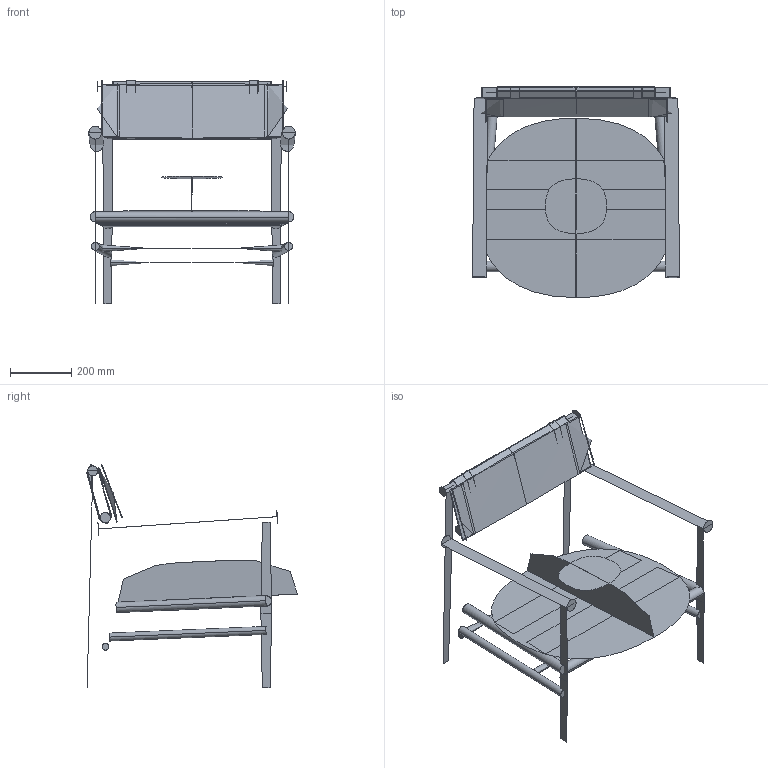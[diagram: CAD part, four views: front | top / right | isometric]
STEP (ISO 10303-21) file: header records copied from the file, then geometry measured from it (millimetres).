
FILE_DESCRIPTION(/* description */ (''),/* implementation_level */ '2;1');
FILE_NAME(/* name */ 'Nama Lounge Chair',/* time_stamp */ '2025-08-28T16:25:10+02:00',/* author */ (''),/* organization */ (''),/* preprocessor_version */ 'ST-DEVELOPER v16.5',/* originating_system */ 'Rhino 7.38',/* authorisation */ '');
FILE_SCHEMA (('CONFIG_CONTROL_DESIGN'));
Length unit declared in the file: millimetre
Products named in the file (1): Document
Bounding box: 674.85 x 688.17 x 729.24 mm (x, y, z)
Volume: 8639134.5 mm3; surface area: 2926301.7 mm2
Topology: 18 solids, 41 shells, 524 faces, 1228 edges, 751 vertices
Faces by surface type: bspline 524
Entity records: 46851 total; most frequent: CARTESIAN_POINT 32330, B_SPLINE_CURVE_WITH_KNOTS 2623, ORIENTED_EDGE 2260, PCURVE 2260, DEFINITIONAL_REPRESENTATION 2260, SURFACE_CURVE 1211, EDGE_CURVE 1211, VERTEX_POINT 733
